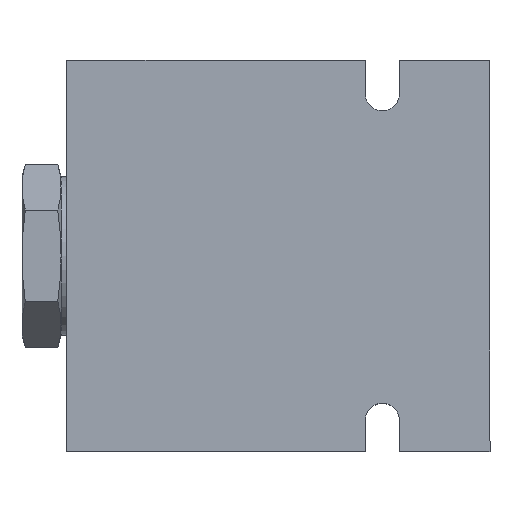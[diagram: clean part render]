
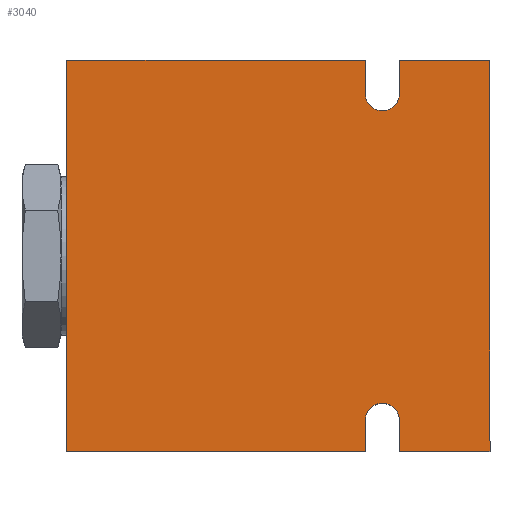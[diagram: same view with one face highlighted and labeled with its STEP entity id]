
A CAD part, top view. The second image highlights one B-rep face of the part: STEP entity #3040.
In plain terms, the highlighted planar face has unit normal (0, 0, 1).
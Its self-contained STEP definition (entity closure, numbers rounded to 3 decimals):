
#51=LINE('',#5740,#156);
#54=LINE('',#5832,#159);
#57=LINE('',#5935,#162);
#60=LINE('',#5972,#165);
#64=LINE('',#5981,#169);
#65=LINE('',#5983,#170);
#66=LINE('',#5984,#171);
#67=LINE('',#5988,#172);
#68=LINE('',#5990,#173);
#69=LINE('',#5991,#174);
#156=VECTOR('',#4779,1000.);
#159=VECTOR('',#4786,1000.);
#162=VECTOR('',#4797,1000.);
#165=VECTOR('',#4806,1000.);
#169=VECTOR('',#4812,1000.);
#170=VECTOR('',#4813,1000.);
#171=VECTOR('',#4814,1000.);
#172=VECTOR('',#4817,1000.);
#173=VECTOR('',#4818,1000.);
#174=VECTOR('',#4819,1000.);
#497=PLANE('',#4273);
#906=ORIENTED_EDGE('',*,*,#1581,.T.);
#907=ORIENTED_EDGE('',*,*,#1577,.F.);
#908=ORIENTED_EDGE('',*,*,#1582,.F.);
#909=ORIENTED_EDGE('',*,*,#1563,.F.);
#910=ORIENTED_EDGE('',*,*,#1583,.F.);
#911=ORIENTED_EDGE('',*,*,#1584,.F.);
#912=ORIENTED_EDGE('',*,*,#1585,.F.);
#913=ORIENTED_EDGE('',*,*,#1586,.F.);
#914=ORIENTED_EDGE('',*,*,#1527,.F.);
#915=ORIENTED_EDGE('',*,*,#1495,.F.);
#916=ORIENTED_EDGE('',*,*,#1587,.T.);
#917=ORIENTED_EDGE('',*,*,#1588,.T.);
#1495=EDGE_CURVE('',#2392,#2393,#51,.T.);
#1527=EDGE_CURVE('',#2393,#2424,#54,.T.);
#1563=EDGE_CURVE('',#2459,#2460,#57,.T.);
#1577=EDGE_CURVE('',#2473,#2474,#60,.T.);
#1581=EDGE_CURVE('',#2477,#2474,#64,.T.);
#1582=EDGE_CURVE('',#2460,#2473,#65,.T.);
#1583=EDGE_CURVE('',#2478,#2459,#66,.T.);
#1584=EDGE_CURVE('',#2479,#2478,#1849,.T.);
#1585=EDGE_CURVE('',#2480,#2479,#67,.T.);
#1586=EDGE_CURVE('',#2424,#2480,#68,.T.);
#1587=EDGE_CURVE('',#2392,#2481,#69,.T.);
#1588=EDGE_CURVE('',#2481,#2477,#1850,.T.);
#1849=CIRCLE('',#4274,4.5);
#1850=CIRCLE('',#4275,4.5);
#2068=EDGE_LOOP('',(#906,#907,#908,#909,#910,#911,#912,#913,#914,#915,#916,
#917));
#2392=VERTEX_POINT('',#5739);
#2393=VERTEX_POINT('',#5741);
#2424=VERTEX_POINT('',#5833);
#2459=VERTEX_POINT('',#5934);
#2460=VERTEX_POINT('',#5936);
#2473=VERTEX_POINT('',#5973);
#2474=VERTEX_POINT('',#5974);
#2477=VERTEX_POINT('',#5982);
#2478=VERTEX_POINT('',#5985);
#2479=VERTEX_POINT('',#5987);
#2480=VERTEX_POINT('',#5989);
#2481=VERTEX_POINT('',#5992);
#2777=FACE_BOUND('',#2068,.T.);
#3040=ADVANCED_FACE('',(#2777),#497,.F.);
#4273=AXIS2_PLACEMENT_3D('',#5980,#4810,#4811);
#4274=AXIS2_PLACEMENT_3D('',#5986,#4815,#4816);
#4275=AXIS2_PLACEMENT_3D('',#5993,#4820,#4821);
#4779=DIRECTION('',(1.,0.,0.));
#4786=DIRECTION('',(0.,-1.,0.));
#4797=DIRECTION('',(-1.,0.,0.));
#4806=DIRECTION('',(1.,0.,0.));
#4810=DIRECTION('',(0.,0.,-1.));
#4811=DIRECTION('',(-1.,0.,0.));
#4812=DIRECTION('',(0.,1.,0.));
#4813=DIRECTION('',(0.,1.,0.));
#4814=DIRECTION('',(0.,-1.,0.));
#4815=DIRECTION('',(0.,0.,1.));
#4816=DIRECTION('',(1.,0.,0.));
#4817=DIRECTION('',(0.,1.,0.));
#4818=DIRECTION('',(-1.,0.,0.));
#4819=DIRECTION('',(0.,-1.,0.));
#4820=DIRECTION('',(0.,0.,-1.));
#4821=DIRECTION('',(1.,0.,0.));
#5739=CARTESIAN_POINT('',(31.5,50.8,50.8));
#5740=CARTESIAN_POINT('',(-55.,50.8,50.8));
#5741=CARTESIAN_POINT('',(55.,50.8,50.8));
#5832=CARTESIAN_POINT('',(55.,50.8,50.8));
#5833=CARTESIAN_POINT('',(55.,-50.8,50.8));
#5934=CARTESIAN_POINT('',(22.5,-50.8,50.8));
#5935=CARTESIAN_POINT('',(55.,-50.8,50.8));
#5936=CARTESIAN_POINT('',(-55.,-50.8,50.8));
#5972=CARTESIAN_POINT('',(-55.,50.8,50.8));
#5973=CARTESIAN_POINT('',(-55.,50.8,50.8));
#5974=CARTESIAN_POINT('',(22.5,50.8,50.8));
#5980=CARTESIAN_POINT('',(0.,0.,50.8));
#5981=CARTESIAN_POINT('',(22.5,42.2,50.8));
#5982=CARTESIAN_POINT('',(22.5,42.2,50.8));
#5983=CARTESIAN_POINT('',(-55.,-50.8,50.8));
#5984=CARTESIAN_POINT('',(22.5,-42.8,50.8));
#5985=CARTESIAN_POINT('',(22.5,-42.8,50.8));
#5986=CARTESIAN_POINT('',(27.,-42.8,50.8));
#5987=CARTESIAN_POINT('',(31.5,-42.8,50.8));
#5988=CARTESIAN_POINT('',(31.5,-42.8,50.8));
#5989=CARTESIAN_POINT('',(31.5,-50.8,50.8));
#5990=CARTESIAN_POINT('',(55.,-50.8,50.8));
#5991=CARTESIAN_POINT('',(31.5,42.2,50.8));
#5992=CARTESIAN_POINT('',(31.5,42.2,50.8));
#5993=CARTESIAN_POINT('',(27.,42.2,50.8));
